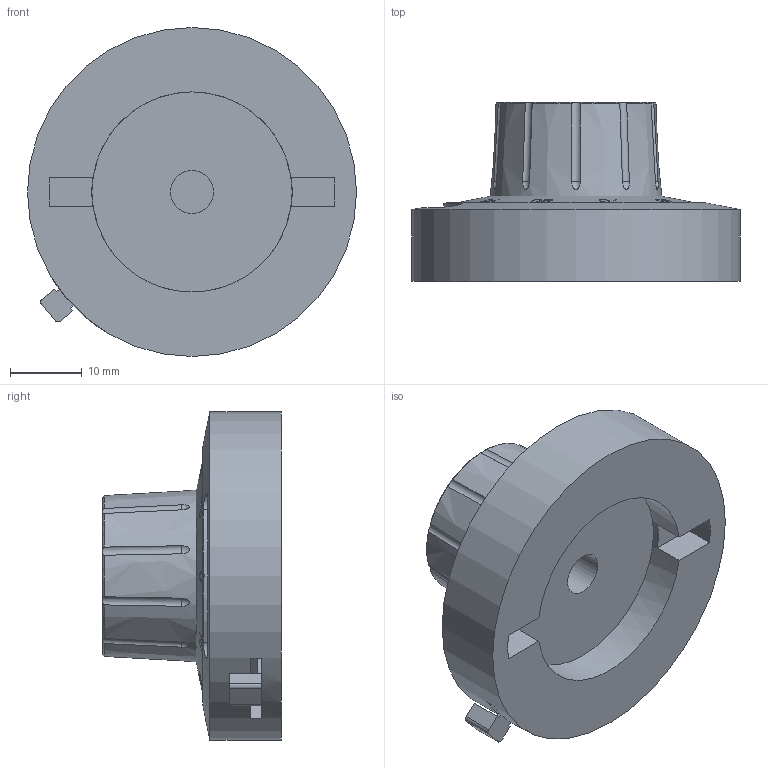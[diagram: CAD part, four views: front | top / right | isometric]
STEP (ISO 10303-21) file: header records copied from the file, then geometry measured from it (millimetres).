
FILE_DESCRIPTION (( 'STEP AP214' ), '1' );
FILE_NAME ('NKK-Dummy.STEP', '2019-05-17T09:00:56', ( '' ), ( '' ), 'SwSTEP 2.0', 'SolidWorks 2017', '' );
FILE_SCHEMA (( 'AUTOMOTIVE_DESIGN' ));
Length unit declared in the file: millimetre
Products named in the file (1): NKK-Dummy
Bounding box: 46 x 25 x 46 mm (x, y, z)
Volume: 19995.9 mm3; surface area: 6929.2 mm2
Topology: 1 solids, 1 shells, 817 faces, 2122 edges, 1346 vertices
Faces by surface type: plane 601, bspline 153, cone 29, cylinder 24, torus 10
Full cylindrical faces by diameter (mm): 6 x1, 18 x1, 28 x1, 36 x1, 46 x1
Entity records: 35001 total; most frequent: CARTESIAN_POINT 16486, ORIENTED_EDGE 4214, DIRECTION 2782, EDGE_CURVE 2107, VERTEX_POINT 1340, LINE 1126, VECTOR 1126, EDGE_LOOP 863
